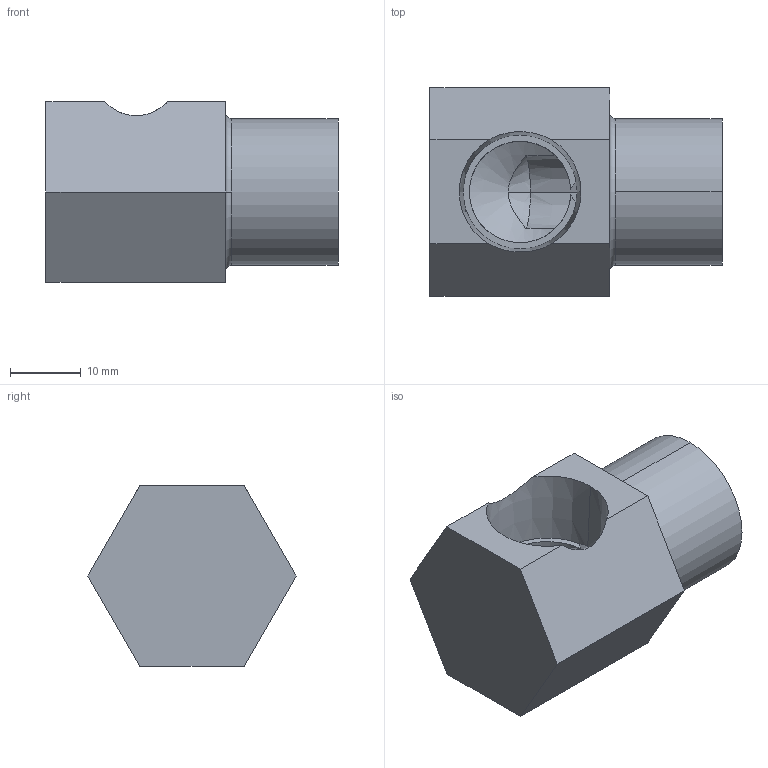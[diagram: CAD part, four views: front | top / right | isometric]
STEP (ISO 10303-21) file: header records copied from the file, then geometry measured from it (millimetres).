
FILE_DESCRIPTION (( 'STEP AP203' ), '1' );
FILE_NAME ('HELS3838.step', '2020-08-19T05:51:54', ( 'Microsoft Corporation' ), ( 'MS' ), 'SwSTEP 2.0', 'SolidWorks 2018', '' );
FILE_SCHEMA (( 'CONFIG_CONTROL_DESIGN' ));
Length unit declared in the file: inch
Products named in the file (1): HELS3838
Bounding box: 41.15 x 29.33 x 25.4 mm (x, y, z)
Volume: 12415.9 mm3; surface area: 5957.4 mm2
Topology: 1 solids, 1 shells, 27 faces, 70 edges, 46 vertices
Faces by surface type: plane 12, cone 9, cylinder 4, torus 2
Entity records: 1015 total; most frequent: CARTESIAN_POINT 282, ORIENTED_EDGE 140, DIRECTION 134, EDGE_CURVE 70, AXIS2_PLACEMENT_3D 52, VERTEX_POINT 46, EDGE_LOOP 30, VECTOR 30
